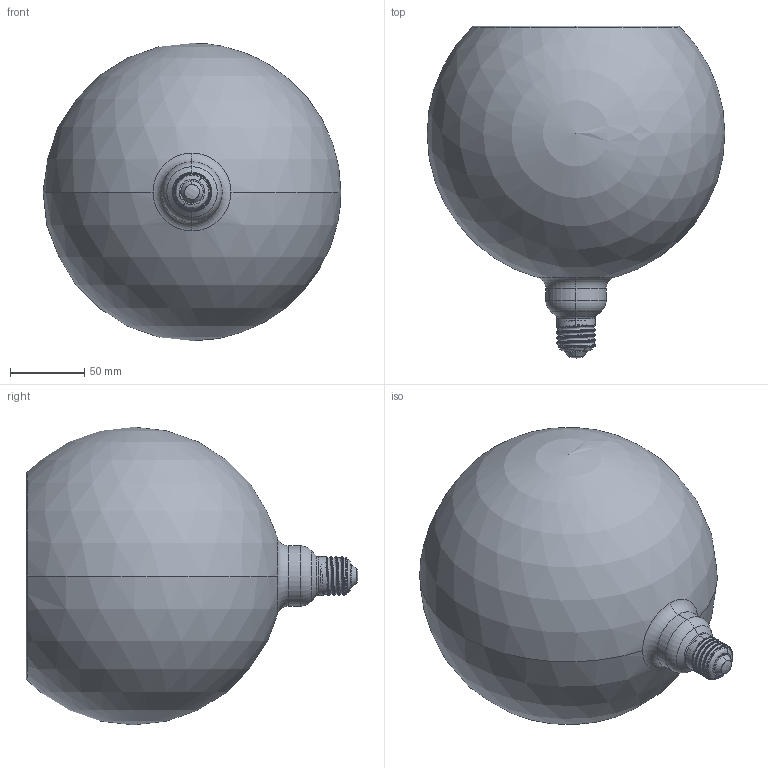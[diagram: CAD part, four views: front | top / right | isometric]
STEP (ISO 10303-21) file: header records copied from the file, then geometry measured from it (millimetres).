
FILE_DESCRIPTION (( 'STEP AP214' ), '1' );
FILE_NAME ('G200AM.STEP', '2023-07-20T14:10:48', ( '' ), ( '' ), 'SwSTEP 2.0', 'SolidWorks 2020', '' );
FILE_SCHEMA (( 'AUTOMOTIVE_DESIGN' ));
Length unit declared in the file: millimetre
Products named in the file (4): G200; G200LED; E27DT 20230721; G200AM
Assembly tree (3 placements, depth 2):
  G200AM
    G200
    G200LED
    E27DT 20230721
Bounding box: 199.99 x 222.87 x 200 mm (x, y, z)
Volume: 231076.1 mm3; surface area: 462158.5 mm2
Topology: 4 solids, 4 shells, 228 faces, 604 edges, 376 vertices
Faces by surface type: torus 66, cylinder 62, bspline 59, plane 19, cone 14, sphere 8
Entity records: 41295 total; most frequent: CARTESIAN_POINT 35560, ORIENTED_EDGE 1168, DIRECTION 1032, EDGE_CURVE 584, AXIS2_PLACEMENT_3D 472, VERTEX_POINT 364, CIRCLE 297, EDGE_LOOP 232
